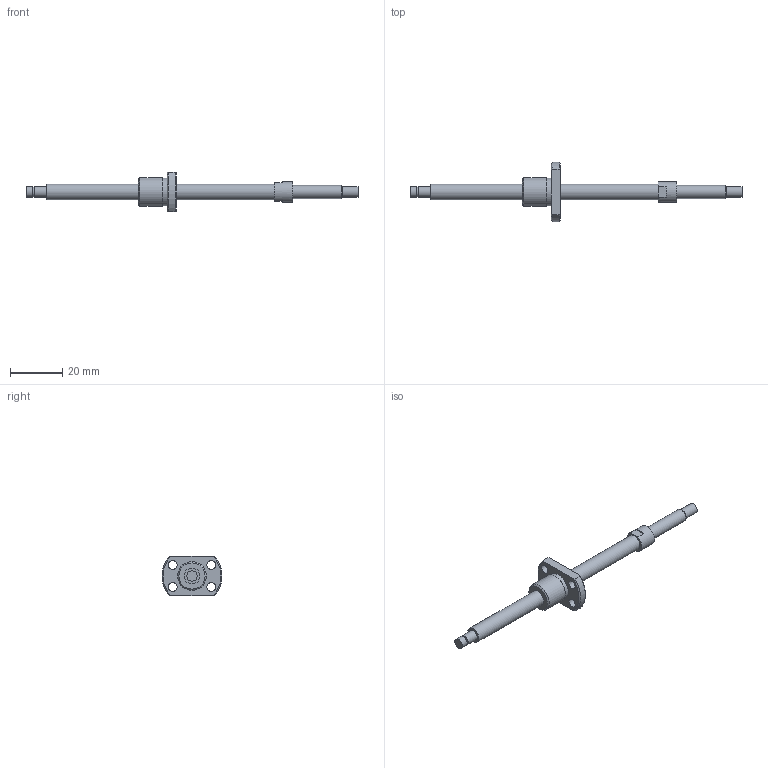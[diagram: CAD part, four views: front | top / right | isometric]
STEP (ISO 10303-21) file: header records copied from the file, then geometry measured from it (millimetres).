
FILE_DESCRIPTION(/* description */ ('STEP AP214'),/* implementation_level */ '2;1');
FILE_NAME(/* name */ 'SRT0601K-83R127C10B0X(B35Processing0X)',/* time_stamp */ '2026-08-04T17:54:34+02:00',/* author */ ('License CC BY-ND 4.0'),/* organization */ ('CADENAS'),/* preprocessor_version */ 'ST-DEVELOPER v20',/* originating_system */ 'PARTsolutions',/* authorisation */ ' ');
FILE_SCHEMA (('AUTOMOTIVE_DESIGN {1 0 10303 214 3 1 1}'));
Length unit declared in the file: millimetre
Products named in the file (3): SRT0601K-83R127C10B0X(B35Processing0X); 4BProcessing127; SR0601K_nut
Assembly tree (2 placements, depth 2):
  SRT0601K-83R127C10B0X(B35Processing0X)
    4BProcessing127
    SR0601K_nut
Bounding box: 127 x 22.93 x 15 mm (x, y, z)
Volume: 4951.5 mm3; surface area: 3918.9 mm2
Topology: 2 solids, 2 shells, 40 faces, 82 edges, 54 vertices
Faces by surface type: plane 18, cylinder 16, cone 6
Full cylindrical faces by diameter (mm): 3.4 x4, 3.7 x1, 4 x3, 5 x1, 6 x2, 8 x1, 10.6 x1, 11 x1
Entity records: 1085 total; most frequent: CARTESIAN_POINT 185, DIRECTION 184, ORIENTED_EDGE 130, AXIS2_PLACEMENT_3D 84, EDGE_LOOP 74, FACE_BOUND 74, EDGE_CURVE 65, VERTEX_POINT 53
